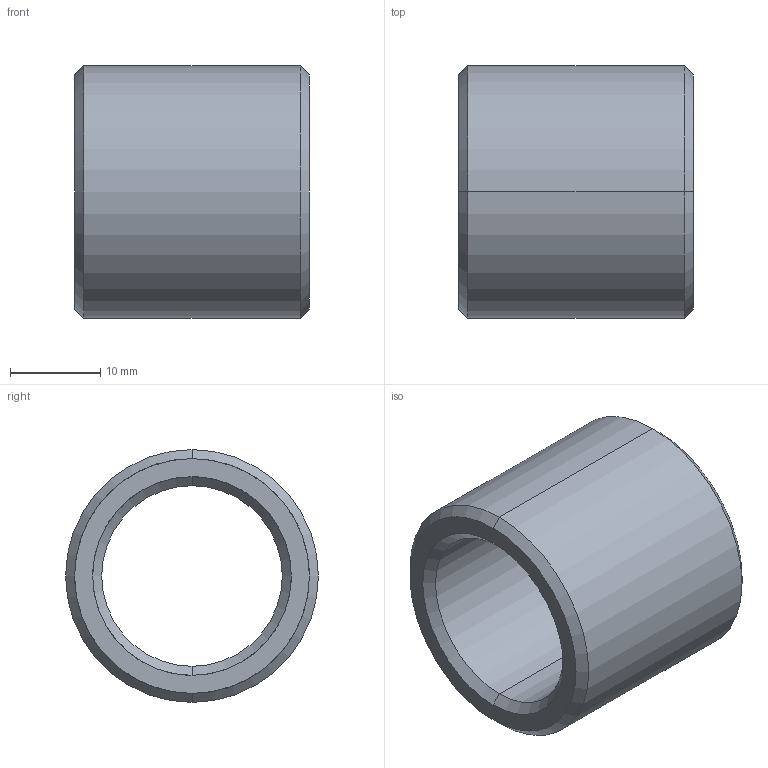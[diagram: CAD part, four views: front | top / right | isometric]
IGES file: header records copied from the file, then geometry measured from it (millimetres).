
Start section: START RECORD GO HERE.
Global section: file name: 352-20X26.igs; native system: DASSAULT SYSTEMES CATIA V5 R20 - www.3ds.com; preprocessor: CATIA Version 5 Release 20 ; author: Utente; organization: NB04-ASUS; date: 20210412.172521; units: millimetre
Bounding box: 26 x 28 x 28 mm (x, y, z)
Surface area: 4356.2 mm2 (no closed solid volume)
Topology: 0 solids, 0 shells, 14 faces, 88 edges, 88 vertices
Faces by surface type: revolution 12, plane 2
